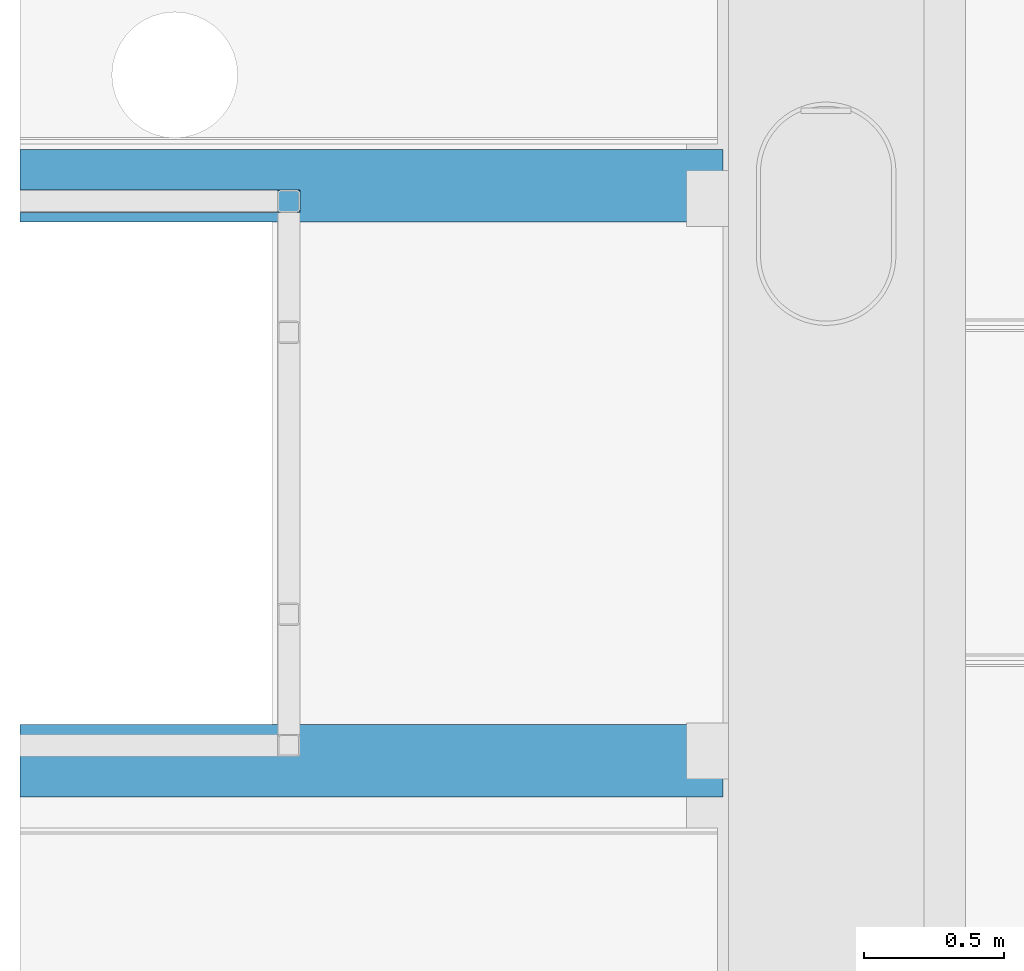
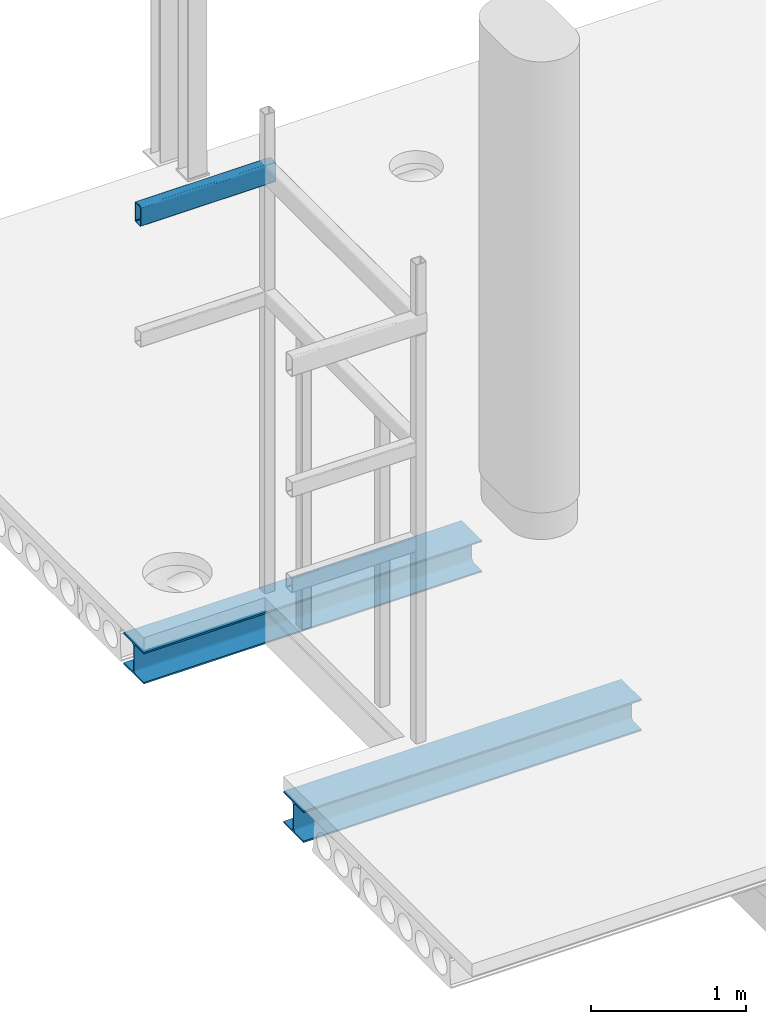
# One storey, part 20 of 34: 3 beams.
"""IFC2X3 building model written with IfcOpenShell, lengths in millimetres."""

from ifc_helpers import new_model, entity, si_unit, converted_unit, derived_unit, direction, frame, origin_with_axes, place, context, subcontext, project, spatial, faceted_brep, type_object, element, save


model = new_model("IFC2X3")

# Units and contexts
model_context = context("Model", 3, precision=0.01, world=frame((0.0, 4.29681676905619e-09, 0.0)), true_north=direction((4.01073788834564e-13, 1.0)))
plan_context = context("Plan", 3, precision=0.01, world=frame((0.0, 4.29681676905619e-09, 0.0)), true_north=direction((4.01073788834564e-13, 1.0)))
body_context = subcontext(model_context, "Body", "Model", "MODEL_VIEW")
ifc_project = project(units=[converted_unit("PLANEANGLEUNIT", "DEGREE", entity("IfcPositiveLengthMeasure", 0.0174532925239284), si_unit("PLANEANGLEUNIT", "RADIAN"), dimensions=[0, 0, 0, 0, 0, 0, 0]), si_unit("AREAUNIT", "SQUARE_METRE"), si_unit("LENGTHUNIT", "METRE", prefix="MILLI"), si_unit("MASSUNIT", "GRAM", prefix="KILO"), si_unit("POWERUNIT", "WATT"), si_unit("PRESSUREUNIT", "PASCAL"), si_unit("FORCEUNIT", "NEWTON", prefix="KILO"), si_unit("ELECTRICVOLTAGEUNIT", "VOLT"), si_unit("ELECTRICCURRENTUNIT", "AMPERE"), si_unit("THERMODYNAMICTEMPERATUREUNIT", "DEGREE_CELSIUS"), si_unit("TIMEUNIT", "SECOND"), si_unit("VOLUMEUNIT", "CUBIC_METRE"), derived_unit("LINEARVELOCITYUNIT", [(si_unit("LENGTHUNIT", "METRE"), 1), (si_unit("TIMEUNIT", "SECOND"), -1)]), derived_unit("VOLUMETRICFLOWRATEUNIT", [(si_unit("VOLUMEUNIT", "CUBIC_METRE"), 1), (si_unit("TIMEUNIT", "SECOND"), -1)]), derived_unit("THERMALTRANSMITTANCEUNIT", [(si_unit("POWERUNIT", "WATT"), 1), (si_unit("THERMODYNAMICTEMPERATUREUNIT", "KELVIN"), -1), (si_unit("AREAUNIT", "SQUARE_METRE"), -1)]), derived_unit("SOUNDPRESSUREUNIT", [(si_unit("PRESSUREUNIT", "PASCAL"), 1)])], contexts=[model_context, plan_context])

# Site, building, storey
site_placement = place(None, frame((0.0, -4.29681676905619e-09, 0.0), z_axis=(0.0, 0.0, 1.0), x_axis=(1.0, 0.0, 0.0)))
site = spatial("IfcSite", under=ifc_project, at=site_placement, Name="Gardermoen", CompositionType="ELEMENT")
building_placement = place(site_placement, frame((0.0, 4.29681676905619e-09, 0.0), z_axis=(0.0, 0.0, 1.0), x_axis=(1.0, 0.0, 0.0)))
building = spatial("IfcBuilding", under=site, at=building_placement, Name="TH", CompositionType="ELEMENT")
storey_placement = place(building_placement, origin_with_axes())
storey = spatial("IfcBuildingStorey", under=building, at=storey_placement, Name="F", CompositionType="ELEMENT", Elevation=0.0)

# Beams
beam_type_1 = type_object("IfcBeamType", Name="HEA260", PredefinedType="NOTDEFINED")
beam_1_placement = place(storey_placement, frame((889370.007588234, 480400.001182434, 209890.0), z_axis=(0.0, 0.0, 1.0), x_axis=(1.0, 0.0, 0.0)))
element("IfcBeam", 1, at=beam_1_placement, inside=storey, type_object=beam_type_1, Name="STÅLBJELKE", ObjectType="HEA260", context=body_context, shape_type="Brep", body=[
    faceted_brep([(5741.89858033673, 130.0, -125.0), (5741.89858033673, -130.0, -125.0), (8260.01287930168, -130.0, -125.0), (8260.01287930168, 130.0, -125.0), (5741.89858033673, -130.0, -112.5), (8260.01287930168, -130.0, -112.5), (5741.89858033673, -27.75, -112.5), (8260.01287930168, -27.75, -112.5), (5741.89858033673, -23.0678322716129, -112.038846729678), (8260.01287930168, -23.0678322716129, -112.038846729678), (5741.89858033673, -18.5655976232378, -110.673108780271), (8260.01287930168, -18.5655976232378, -110.673108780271), (5741.89858033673, -14.4163144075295, -108.455270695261), (8260.01287930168, -14.4163144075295, -108.455270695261), (5741.89858033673, -10.7794372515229, -105.470562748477), (8260.01287930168, -10.7794372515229, -105.470562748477), (5741.89858033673, -7.79472930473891, -101.83368559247), (8260.01287930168, -7.79472930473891, -101.83368559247), (5741.89858033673, -5.57689121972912, -97.6844023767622), (8260.01287930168, -5.57689121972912, -97.6844023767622), (5741.89858033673, -4.21115327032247, -93.1821677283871), (8260.01287930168, -4.21115327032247, -93.1821677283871), (5741.89858033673, -3.75, -88.5), (8260.01287930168, -3.75, -88.5), (5741.89858033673, -3.75, 88.5), (8260.01287930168, -3.75, 88.5), (5741.89858033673, -4.21115327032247, 93.1821677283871), (8260.01287930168, -4.21115327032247, 93.1821677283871), (5741.89858033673, -5.57689121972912, 97.6844023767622), (8260.01287930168, -5.57689121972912, 97.6844023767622), (5741.89858033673, -7.79472930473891, 101.83368559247), (8260.01287930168, -7.79472930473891, 101.83368559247), (5741.89858033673, -10.7794372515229, 105.470562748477), (8260.01287930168, -10.7794372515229, 105.470562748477), (5741.89858033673, -14.4163144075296, 108.455270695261), (8260.01287930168, -14.4163144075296, 108.455270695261), (5741.89858033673, -18.5655976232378, 110.673108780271), (8260.01287930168, -18.5655976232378, 110.673108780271), (5741.89858033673, -23.0678322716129, 112.038846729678), (8260.01287930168, -23.0678322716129, 112.038846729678), (5741.89858033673, -27.75, 112.5), (8260.01287930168, -27.75, 112.5), (5741.89858033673, -130.0, 112.5), (8260.01287930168, -130.0, 112.5), (5741.89858033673, -130.0, 125.0), (8260.01287930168, -130.0, 125.0), (5741.89858033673, 130.0, 125.0), (8260.01287930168, 130.0, 125.0), (5741.89858033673, 130.0, 112.5), (8260.01287930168, 130.0, 112.5), (5741.89858033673, 27.75, 112.5), (8260.01287930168, 27.75, 112.5), (5741.89858033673, 23.0678322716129, 112.038846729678), (8260.01287930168, 23.0678322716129, 112.038846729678), (5741.89858033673, 18.5655976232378, 110.673108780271), (8260.01287930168, 18.5655976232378, 110.673108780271), (5741.89858033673, 14.4163144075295, 108.455270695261), (8260.01287930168, 14.4163144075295, 108.455270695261), (5741.89858033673, 10.7794372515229, 105.470562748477), (8260.01287930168, 10.7794372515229, 105.470562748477), (5741.89858033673, 7.79472930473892, 101.83368559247), (8260.01287930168, 7.79472930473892, 101.83368559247), (5741.89858033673, 5.57689121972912, 97.6844023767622), (8260.01287930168, 5.57689121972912, 97.6844023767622), (5741.89858033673, 4.21115327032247, 93.1821677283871), (8260.01287930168, 4.21115327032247, 93.1821677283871), (5741.89858033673, 3.75, 88.5), (8260.01287930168, 3.75, 88.5), (5741.89858033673, 3.75, -88.5), (8260.01287930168, 3.75, -88.5), (5741.89858033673, 4.21115327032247, -93.1821677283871), (8260.01287930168, 4.21115327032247, -93.1821677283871), (5741.89858033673, 5.57689121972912, -97.6844023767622), (8260.01287930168, 5.57689121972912, -97.6844023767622), (5741.89858033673, 7.79472930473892, -101.83368559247), (8260.01287930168, 7.79472930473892, -101.83368559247), (5741.89858033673, 10.7794372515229, -105.470562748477), (8260.01287930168, 10.7794372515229, -105.470562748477), (5741.89858033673, 14.4163144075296, -108.455270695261), (8260.01287930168, 14.4163144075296, -108.455270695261), (5741.89858033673, 18.5655976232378, -110.673108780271), (8260.01287930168, 18.5655976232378, -110.673108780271), (5741.89858033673, 23.0678322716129, -112.038846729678), (8260.01287930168, 23.0678322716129, -112.038846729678), (5741.89858033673, 27.75, -112.5), (8260.01287930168, 27.75, -112.5), (5741.89858033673, 130.0, -112.5), (8260.01287930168, 130.0, -112.5)], [[[0, 1, 2, 3]], [[1, 4, 5, 2]], [[4, 6, 7, 5]], [[6, 8, 9, 7]], [[8, 10, 11, 9]], [[10, 12, 13, 11]], [[12, 14, 15, 13]], [[14, 16, 17, 15]], [[16, 18, 19, 17]], [[18, 20, 21, 19]], [[20, 22, 23, 21]], [[22, 24, 25, 23]], [[24, 26, 27, 25]], [[26, 28, 29, 27]], [[28, 30, 31, 29]], [[30, 32, 33, 31]], [[32, 34, 35, 33]], [[34, 36, 37, 35]], [[36, 38, 39, 37]], [[38, 40, 41, 39]], [[40, 42, 43, 41]], [[42, 44, 45, 43]], [[44, 46, 47, 45]], [[46, 48, 49, 47]], [[48, 50, 51, 49]], [[50, 52, 53, 51]], [[52, 54, 55, 53]], [[54, 56, 57, 55]], [[56, 58, 59, 57]], [[58, 60, 61, 59]], [[60, 62, 63, 61]], [[62, 64, 65, 63]], [[64, 66, 67, 65]], [[66, 68, 69, 67]], [[68, 70, 71, 69]], [[70, 72, 73, 71]], [[72, 74, 75, 73]], [[74, 76, 77, 75]], [[76, 78, 79, 77]], [[78, 80, 81, 79]], [[80, 82, 83, 81]], [[82, 84, 85, 83]], [[84, 86, 87, 85]], [[86, 0, 3, 87]], [[3, 2, 5, 7, 9, 11, 13, 15, 17, 19, 21, 23, 25, 27, 29, 31, 33, 35, 37, 39, 41, 43, 45, 47, 49, 51, 53, 55, 57, 59, 61, 63, 65, 67, 69, 71, 73, 75, 77, 79, 81, 83, 85, 87]], [[86, 84, 82, 80, 78, 76, 74, 72, 70, 68, 66, 64, 62, 60, 58, 56, 54, 52, 50, 48, 46, 44, 42, 40, 38, 36, 34, 32, 30, 28, 26, 24, 22, 20, 18, 16, 14, 12, 10, 8, 6, 4, 1, 0]]], orient=[[False], [False], [False], [False], [False], [False], [False], [False], [False], [False], [False], [False], [False], [False], [False], [False], [False], [False], [False], [False], [False], [False], [False], [False], [False], [False], [False], [False], [False], [False], [False], [False], [False], [False], [False], [False], [False], [False], [False], [False], [False], [False], [False], [False], [False], [False]]),
])
beam_2_placement = place(storey_placement, frame((889370.007588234, 478340.001182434, 209890.0), z_axis=(0.0, 0.0, 1.0), x_axis=(1.0, 0.0, 0.0)))
element("IfcBeam", 2, at=beam_2_placement, inside=storey, type_object=beam_type_1, Name="STÅLBJELKE", ObjectType="HEA260", context=body_context, shape_type="Brep", body=[
    faceted_brep([(5741.89858033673, 130.0, -125.0), (5741.89858033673, -130.0, -125.0), (8260.01287930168, -130.0, -125.0), (8260.01287930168, 130.0, -125.0), (5741.89858033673, -130.0, -112.5), (8260.01287930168, -130.0, -112.5), (5741.89858033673, -27.75, -112.5), (8260.01287930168, -27.75, -112.5), (5741.89858033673, -23.0678322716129, -112.038846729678), (8260.01287930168, -23.0678322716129, -112.038846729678), (5741.89858033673, -18.5655976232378, -110.673108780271), (8260.01287930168, -18.5655976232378, -110.673108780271), (5741.89858033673, -14.4163144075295, -108.455270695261), (8260.01287930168, -14.4163144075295, -108.455270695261), (5741.89858033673, -10.7794372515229, -105.470562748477), (8260.01287930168, -10.7794372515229, -105.470562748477), (5741.89858033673, -7.79472930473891, -101.83368559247), (8260.01287930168, -7.79472930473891, -101.83368559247), (5741.89858033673, -5.57689121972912, -97.6844023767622), (8260.01287930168, -5.57689121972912, -97.6844023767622), (5741.89858033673, -4.21115327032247, -93.1821677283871), (8260.01287930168, -4.21115327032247, -93.1821677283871), (5741.89858033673, -3.75, -88.5), (8260.01287930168, -3.75, -88.5), (5741.89858033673, -3.75, 88.5), (8260.01287930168, -3.75, 88.5), (5741.89858033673, -4.21115327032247, 93.1821677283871), (8260.01287930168, -4.21115327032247, 93.1821677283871), (5741.89858033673, -5.57689121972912, 97.6844023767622), (8260.01287930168, -5.57689121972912, 97.6844023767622), (5741.89858033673, -7.79472930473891, 101.83368559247), (8260.01287930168, -7.79472930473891, 101.83368559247), (5741.89858033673, -10.7794372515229, 105.470562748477), (8260.01287930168, -10.7794372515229, 105.470562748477), (5741.89858033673, -14.4163144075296, 108.455270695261), (8260.01287930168, -14.4163144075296, 108.455270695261), (5741.89858033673, -18.5655976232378, 110.673108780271), (8260.01287930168, -18.5655976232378, 110.673108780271), (5741.89858033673, -23.0678322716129, 112.038846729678), (8260.01287930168, -23.0678322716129, 112.038846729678), (5741.89858033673, -27.75, 112.5), (8260.01287930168, -27.75, 112.5), (5741.89858033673, -130.0, 112.5), (8260.01287930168, -130.0, 112.5), (5741.89858033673, -130.0, 125.0), (8260.01287930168, -130.0, 125.0), (5741.89858033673, 130.0, 125.0), (8260.01287930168, 130.0, 125.0), (5741.89858033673, 130.0, 112.5), (8260.01287930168, 130.0, 112.5), (5741.89858033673, 27.75, 112.5), (8260.01287930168, 27.75, 112.5), (5741.89858033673, 23.0678322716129, 112.038846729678), (8260.01287930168, 23.0678322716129, 112.038846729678), (5741.89858033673, 18.5655976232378, 110.673108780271), (8260.01287930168, 18.5655976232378, 110.673108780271), (5741.89858033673, 14.4163144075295, 108.455270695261), (8260.01287930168, 14.4163144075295, 108.455270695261), (5741.89858033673, 10.7794372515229, 105.470562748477), (8260.01287930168, 10.7794372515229, 105.470562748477), (5741.89858033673, 7.79472930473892, 101.83368559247), (8260.01287930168, 7.79472930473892, 101.83368559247), (5741.89858033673, 5.57689121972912, 97.6844023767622), (8260.01287930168, 5.57689121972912, 97.6844023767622), (5741.89858033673, 4.21115327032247, 93.1821677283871), (8260.01287930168, 4.21115327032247, 93.1821677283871), (5741.89858033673, 3.75, 88.5), (8260.01287930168, 3.75, 88.5), (5741.89858033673, 3.75, -88.5), (8260.01287930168, 3.75, -88.5), (5741.89858033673, 4.21115327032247, -93.1821677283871), (8260.01287930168, 4.21115327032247, -93.1821677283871), (5741.89858033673, 5.57689121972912, -97.6844023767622), (8260.01287930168, 5.57689121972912, -97.6844023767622), (5741.89858033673, 7.79472930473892, -101.83368559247), (8260.01287930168, 7.79472930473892, -101.83368559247), (5741.89858033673, 10.7794372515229, -105.470562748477), (8260.01287930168, 10.7794372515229, -105.470562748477), (5741.89858033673, 14.4163144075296, -108.455270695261), (8260.01287930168, 14.4163144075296, -108.455270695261), (5741.89858033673, 18.5655976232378, -110.673108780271), (8260.01287930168, 18.5655976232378, -110.673108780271), (5741.89858033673, 23.0678322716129, -112.038846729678), (8260.01287930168, 23.0678322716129, -112.038846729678), (5741.89858033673, 27.75, -112.5), (8260.01287930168, 27.75, -112.5), (5741.89858033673, 130.0, -112.5), (8260.01287930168, 130.0, -112.5)], [[[0, 1, 2, 3]], [[1, 4, 5, 2]], [[4, 6, 7, 5]], [[6, 8, 9, 7]], [[8, 10, 11, 9]], [[10, 12, 13, 11]], [[12, 14, 15, 13]], [[14, 16, 17, 15]], [[16, 18, 19, 17]], [[18, 20, 21, 19]], [[20, 22, 23, 21]], [[22, 24, 25, 23]], [[24, 26, 27, 25]], [[26, 28, 29, 27]], [[28, 30, 31, 29]], [[30, 32, 33, 31]], [[32, 34, 35, 33]], [[34, 36, 37, 35]], [[36, 38, 39, 37]], [[38, 40, 41, 39]], [[40, 42, 43, 41]], [[42, 44, 45, 43]], [[44, 46, 47, 45]], [[46, 48, 49, 47]], [[48, 50, 51, 49]], [[50, 52, 53, 51]], [[52, 54, 55, 53]], [[54, 56, 57, 55]], [[56, 58, 59, 57]], [[58, 60, 61, 59]], [[60, 62, 63, 61]], [[62, 64, 65, 63]], [[64, 66, 67, 65]], [[66, 68, 69, 67]], [[68, 70, 71, 69]], [[70, 72, 73, 71]], [[72, 74, 75, 73]], [[74, 76, 77, 75]], [[76, 78, 79, 77]], [[78, 80, 81, 79]], [[80, 82, 83, 81]], [[82, 84, 85, 83]], [[84, 86, 87, 85]], [[86, 0, 3, 87]], [[3, 2, 5, 7, 9, 11, 13, 15, 17, 19, 21, 23, 25, 27, 29, 31, 33, 35, 37, 39, 41, 43, 45, 47, 49, 51, 53, 55, 57, 59, 61, 63, 65, 67, 69, 71, 73, 75, 77, 79, 81, 83, 85, 87]], [[86, 84, 82, 80, 78, 76, 74, 72, 70, 68, 66, 64, 62, 60, 58, 56, 54, 52, 50, 48, 46, 44, 42, 40, 38, 36, 34, 32, 30, 28, 26, 24, 22, 20, 18, 16, 14, 12, 10, 8, 6, 4, 1, 0]]], orient=[[False], [False], [False], [False], [False], [False], [False], [False], [False], [False], [False], [False], [False], [False], [False], [False], [False], [False], [False], [False], [False], [False], [False], [False], [False], [False], [False], [False], [False], [False], [False], [False], [False], [False], [False], [False], [False], [False], [False], [False], [False], [False], [False], [False], [False], [False]]),
])
beam_type_2 = type_object("IfcBeamType", Name="RHS160*80*6.3", PredefinedType="NOTDEFINED")
beam_3_placement = place(storey_placement, frame((890884.999766, 480345.0, 213420.0), z_axis=(0.0, 0.0, 1.0), x_axis=(1.0, 0.0, 0.0)))
element("IfcBeam", 3, at=beam_3_placement, inside=storey, type_object=beam_type_2, Name="STÅLBJELKE", ObjectType="RHS160*80*6.3", context=body_context, shape_type="Brep", body=[
    faceted_brep([(4226.90640257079, -24.19999981, -73.699999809), (4226.90640257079, 24.19999981, -73.699999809), (5230.0, 24.19999981, -73.699999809), (5230.0, -24.19999981, -73.699999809), (4226.90640257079, 26.0533578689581, -73.5174599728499), (5230.0, 26.0533578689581, -73.5174599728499), (4226.90640257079, 27.8354924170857, -72.9768553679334), (5230.0, 27.8354924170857, -72.9768553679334), (4226.90640257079, 29.4779170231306, -72.0989611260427), (5230.0, 29.4779170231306, -72.0989611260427), (4226.90640257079, 30.9175142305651, -70.9175142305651), (5230.0, 30.9175142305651, -70.9175142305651), (4226.90640257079, 32.0989611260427, -69.4779170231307), (5230.0, 32.0989611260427, -69.4779170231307), (4226.90640257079, 32.9768553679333, -67.8354924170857), (5230.0, 32.9768553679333, -67.8354924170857), (4226.90640257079, 33.5174599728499, -66.0533578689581), (5230.0, 33.5174599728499, -66.0533578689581), (4226.90640257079, 33.699999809, -64.19999981), (5230.0, 33.699999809, -64.19999981), (4226.90640257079, 33.699999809, 64.19999981), (5230.0, 33.699999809, 64.19999981), (4226.90640257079, 33.5174599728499, 66.0533578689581), (5230.0, 33.5174599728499, 66.0533578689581), (4226.90640257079, 32.9768553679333, 67.8354924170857), (5230.0, 32.9768553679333, 67.8354924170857), (4226.90640257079, 32.0989611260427, 69.4779170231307), (5230.0, 32.0989611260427, 69.4779170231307), (4226.90640257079, 30.9175142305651, 70.9175142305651), (5230.0, 30.9175142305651, 70.9175142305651), (4226.90640257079, 29.4779170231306, 72.0989611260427), (5230.0, 29.4779170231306, 72.0989611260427), (4226.90640257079, 27.8354924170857, 72.9768553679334), (5230.0, 27.8354924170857, 72.9768553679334), (4226.90640257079, 26.0533578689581, 73.5174599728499), (5230.0, 26.0533578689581, 73.5174599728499), (4226.90640257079, 24.19999981, 73.699999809), (5230.0, 24.19999981, 73.699999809), (4226.90640257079, -24.19999981, 73.699999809), (5230.0, -24.19999981, 73.699999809), (4226.90640257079, -26.0533578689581, 73.5174599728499), (5230.0, -26.0533578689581, 73.5174599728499), (4226.90640257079, -27.8354924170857, 72.9768553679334), (5230.0, -27.8354924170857, 72.9768553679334), (4226.90640257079, -29.4779170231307, 72.0989611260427), (5230.0, -29.4779170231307, 72.0989611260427), (4226.90640257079, -30.9175142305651, 70.9175142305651), (5230.0, -30.9175142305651, 70.9175142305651), (4226.90640257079, -32.0989611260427, 69.4779170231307), (5230.0, -32.0989611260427, 69.4779170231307), (4226.90640257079, -32.9768553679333, 67.8354924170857), (5230.0, -32.9768553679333, 67.8354924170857), (4226.90640257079, -33.5174599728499, 66.0533578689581), (5230.0, -33.5174599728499, 66.0533578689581), (4226.90640257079, -33.699999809, 64.19999981), (5230.0, -33.699999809, 64.19999981), (4226.90640257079, -33.699999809, -64.19999981), (5230.0, -33.699999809, -64.19999981), (4226.90640257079, -33.5174599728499, -66.0533578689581), (5230.0, -33.5174599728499, -66.0533578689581), (4226.90640257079, -32.9768553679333, -67.8354924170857), (5230.0, -32.9768553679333, -67.8354924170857), (4226.90640257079, -32.0989611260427, -69.4779170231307), (5230.0, -32.0989611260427, -69.4779170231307), (4226.90640257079, -30.9175142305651, -70.9175142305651), (5230.0, -30.9175142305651, -70.9175142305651), (4226.90640257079, -29.4779170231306, -72.0989611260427), (5230.0, -29.4779170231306, -72.0989611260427), (4226.90640257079, -27.8354924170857, -72.9768553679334), (5230.0, -27.8354924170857, -72.9768553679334), (4226.90640257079, -26.0533578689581, -73.5174599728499), (5230.0, -26.0533578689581, -73.5174599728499), (4226.90640257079, 24.19999981, -80.0), (4226.90640257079, -24.19999981, -80.0), (5230.0, -24.19999981, -80.0), (5230.0, 24.19999981, -80.0), (4226.90640257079, -27.282426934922, -79.6964074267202), (5230.0, -27.282426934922, -79.6964074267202), (4226.90640257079, -30.2463981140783, -78.7972965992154), (5230.0, -30.2463981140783, -78.7972965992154), (4226.90640257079, -32.9780095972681, -77.3372198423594), (5230.0, -32.9780095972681, -77.3372198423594), (4226.90640257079, -35.3722870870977, -75.3722870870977), (5230.0, -35.3722870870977, -75.3722870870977), (4226.90640257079, -37.3372198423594, -72.9780095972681), (5230.0, -37.3372198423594, -72.9780095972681), (4226.90640257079, -38.7972965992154, -70.2463981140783), (5230.0, -38.7972965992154, -70.2463981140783), (4226.90640257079, -39.6964074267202, -67.282426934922), (5230.0, -39.6964074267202, -67.282426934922), (4226.90640257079, -40.0, -64.19999981), (5230.0, -40.0, -64.19999981), (4226.90640257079, -40.0, 64.19999981), (5230.0, -40.0, 64.19999981), (4226.90640257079, -39.6964074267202, 67.282426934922), (5230.0, -39.6964074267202, 67.282426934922), (4226.90640257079, -38.7972965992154, 70.2463981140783), (5230.0, -38.7972965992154, 70.2463981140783), (4226.90640257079, -37.3372198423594, 72.9780095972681), (5230.0, -37.3372198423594, 72.9780095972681), (4226.90640257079, -35.3722870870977, 75.3722870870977), (5230.0, -35.3722870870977, 75.3722870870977), (4226.90640257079, -32.9780095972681, 77.3372198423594), (5230.0, -32.9780095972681, 77.3372198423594), (4226.90640257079, -30.2463981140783, 78.7972965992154), (5230.0, -30.2463981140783, 78.7972965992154), (4226.90640257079, -27.282426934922, 79.6964074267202), (5230.0, -27.282426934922, 79.6964074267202), (4226.90640257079, -24.19999981, 80.0), (5230.0, -24.19999981, 80.0), (4226.90640257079, 24.19999981, 80.0), (5230.0, 24.19999981, 80.0), (4226.90640257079, 27.282426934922, 79.6964074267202), (5230.0, 27.282426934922, 79.6964074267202), (4226.90640257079, 30.2463981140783, 78.7972965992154), (5230.0, 30.2463981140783, 78.7972965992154), (4226.90640257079, 32.9780095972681, 77.3372198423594), (5230.0, 32.9780095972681, 77.3372198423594), (4226.90640257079, 35.3722870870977, 75.3722870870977), (5230.0, 35.3722870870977, 75.3722870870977), (4226.90640257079, 37.3372198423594, 72.9780095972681), (5230.0, 37.3372198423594, 72.9780095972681), (4226.90640257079, 38.7972965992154, 70.2463981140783), (5230.0, 38.7972965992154, 70.2463981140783), (4226.90640257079, 39.6964074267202, 67.282426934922), (5230.0, 39.6964074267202, 67.282426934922), (4226.90640257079, 40.0, 64.19999981), (5230.0, 40.0, 64.19999981), (4226.90640257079, 40.0, -64.19999981), (5230.0, 40.0, -64.19999981), (4226.90640257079, 39.6964074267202, -67.282426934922), (5230.0, 39.6964074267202, -67.282426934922), (4226.90640257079, 38.7972965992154, -70.2463981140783), (5230.0, 38.7972965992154, -70.2463981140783), (4226.90640257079, 37.3372198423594, -72.9780095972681), (5230.0, 37.3372198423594, -72.9780095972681), (4226.90640257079, 35.3722870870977, -75.3722870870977), (5230.0, 35.3722870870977, -75.3722870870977), (4226.90640257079, 32.9780095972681, -77.3372198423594), (5230.0, 32.9780095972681, -77.3372198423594), (4226.90640257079, 30.2463981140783, -78.7972965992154), (5230.0, 30.2463981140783, -78.7972965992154), (4226.90640257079, 27.282426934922, -79.6964074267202), (5230.0, 27.282426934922, -79.6964074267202)], [[[0, 1, 2, 3]], [[1, 4, 5, 2]], [[4, 6, 7, 5]], [[6, 8, 9, 7]], [[8, 10, 11, 9]], [[10, 12, 13, 11]], [[12, 14, 15, 13]], [[14, 16, 17, 15]], [[16, 18, 19, 17]], [[18, 20, 21, 19]], [[20, 22, 23, 21]], [[22, 24, 25, 23]], [[24, 26, 27, 25]], [[26, 28, 29, 27]], [[28, 30, 31, 29]], [[30, 32, 33, 31]], [[32, 34, 35, 33]], [[34, 36, 37, 35]], [[36, 38, 39, 37]], [[38, 40, 41, 39]], [[40, 42, 43, 41]], [[42, 44, 45, 43]], [[44, 46, 47, 45]], [[46, 48, 49, 47]], [[48, 50, 51, 49]], [[50, 52, 53, 51]], [[52, 54, 55, 53]], [[54, 56, 57, 55]], [[56, 58, 59, 57]], [[58, 60, 61, 59]], [[60, 62, 63, 61]], [[62, 64, 65, 63]], [[64, 66, 67, 65]], [[66, 68, 69, 67]], [[68, 70, 71, 69]], [[70, 0, 3, 71]], [[72, 73, 74, 75]], [[73, 76, 77, 74]], [[76, 78, 79, 77]], [[78, 80, 81, 79]], [[80, 82, 83, 81]], [[82, 84, 85, 83]], [[84, 86, 87, 85]], [[86, 88, 89, 87]], [[88, 90, 91, 89]], [[90, 92, 93, 91]], [[92, 94, 95, 93]], [[94, 96, 97, 95]], [[96, 98, 99, 97]], [[98, 100, 101, 99]], [[100, 102, 103, 101]], [[102, 104, 105, 103]], [[104, 106, 107, 105]], [[106, 108, 109, 107]], [[108, 110, 111, 109]], [[110, 112, 113, 111]], [[112, 114, 115, 113]], [[114, 116, 117, 115]], [[116, 118, 119, 117]], [[118, 120, 121, 119]], [[120, 122, 123, 121]], [[122, 124, 125, 123]], [[124, 126, 127, 125]], [[126, 128, 129, 127]], [[128, 130, 131, 129]], [[130, 132, 133, 131]], [[132, 134, 135, 133]], [[134, 136, 137, 135]], [[136, 138, 139, 137]], [[138, 140, 141, 139]], [[140, 142, 143, 141]], [[142, 72, 75, 143]], [[75, 74, 77, 79, 81, 83, 85, 87, 89, 91, 93, 95, 97, 99, 101, 103, 105, 107, 109, 111, 113, 115, 117, 119, 121, 123, 125, 127, 129, 131, 133, 135, 137, 139, 141, 143], [3, 2, 5, 7, 9, 11, 13, 15, 17, 19, 21, 23, 25, 27, 29, 31, 33, 35, 37, 39, 41, 43, 45, 47, 49, 51, 53, 55, 57, 59, 61, 63, 65, 67, 69, 71]], [[142, 140, 138, 136, 134, 132, 130, 128, 126, 124, 122, 120, 118, 116, 114, 112, 110, 108, 106, 104, 102, 100, 98, 96, 94, 92, 90, 88, 86, 84, 82, 80, 78, 76, 73, 72], [70, 68, 66, 64, 62, 60, 58, 56, 54, 52, 50, 48, 46, 44, 42, 40, 38, 36, 34, 32, 30, 28, 26, 24, 22, 20, 18, 16, 14, 12, 10, 8, 6, 4, 1, 0]]], orient=[[False], [False], [False], [False], [False], [False], [False], [False], [False], [False], [False], [False], [False], [False], [False], [False], [False], [False], [False], [False], [False], [False], [False], [False], [False], [False], [False], [False], [False], [False], [False], [False], [False], [False], [False], [False], [False], [False], [False], [False], [False], [False], [False], [False], [False], [False], [False], [False], [False], [False], [False], [False], [False], [False], [False], [False], [False], [False], [False], [False], [False], [False], [False], [False], [False], [False], [False], [False], [False], [False], [False], [False], [False, False], [False, False]]),
])

save(model, "model.ifc")
